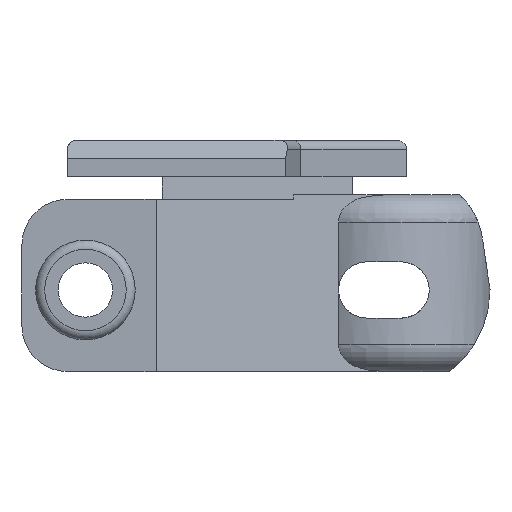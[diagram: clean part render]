
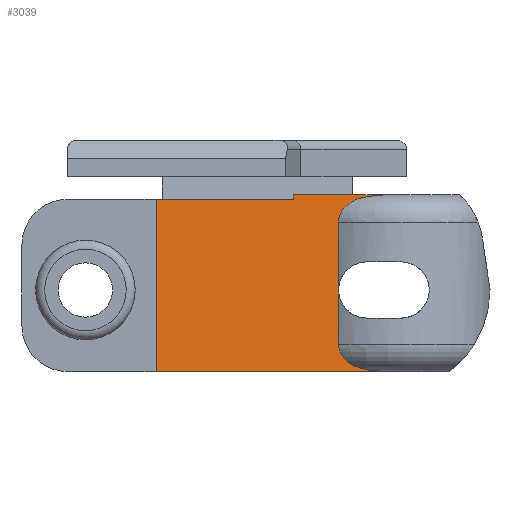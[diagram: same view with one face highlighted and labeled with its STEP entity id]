
A CAD part, front view. The second image highlights one B-rep face of the part: STEP entity #3039.
In plain terms, the highlighted planar face has unit normal (0.255, -0.967, 0).
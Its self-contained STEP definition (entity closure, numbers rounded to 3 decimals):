
#93=B_SPLINE_CURVE_WITH_KNOTS('',3,(#5126,#5127,#5128,#5129,#5130,#5131,
#5132,#5133,#5134,#5135),.UNSPECIFIED.,.F.,.F.,(4,2,2,2,4),(0.161,
0.525,0.674,0.781,0.872),
 .UNSPECIFIED.);
#95=B_SPLINE_CURVE_WITH_KNOTS('',3,(#5156,#5157,#5158,#5159,#5160,#5161,
#5162,#5163,#5164,#5165),.UNSPECIFIED.,.F.,.F.,(4,2,2,2,4),(2.616,
2.706,2.814,2.962,3.327),
 .UNSPECIFIED.);
#383=FACE_OUTER_BOUND('',#557,.T.);
#557=EDGE_LOOP('',(#2775,#2776,#2777,#2778,#2779,#2780,#2781,#2782,#2783));
#660=LINE('',#4627,#976);
#661=LINE('',#4629,#977);
#675=LINE('',#4684,#991);
#684=LINE('',#4705,#1000);
#815=LINE('',#5168,#1131);
#870=LINE('',#5310,#1186);
#871=LINE('',#5313,#1187);
#976=VECTOR('',#3543,10.);
#977=VECTOR('',#3544,10.);
#991=VECTOR('',#3596,10.);
#1000=VECTOR('',#3615,10.);
#1131=VECTOR('',#4030,10.);
#1186=VECTOR('',#4163,10.);
#1187=VECTOR('',#4168,10.);
#1296=VERTEX_POINT('',#4552);
#1304=VERTEX_POINT('',#4625);
#1305=VERTEX_POINT('',#4628);
#1326=VERTEX_POINT('',#4681);
#1327=VERTEX_POINT('',#4683);
#1333=VERTEX_POINT('',#4702);
#1334=VERTEX_POINT('',#4704);
#1445=VERTEX_POINT('',#5154);
#1446=VERTEX_POINT('',#5167);
#1609=EDGE_CURVE('',#1304,#1296,#660,.T.);
#1610=EDGE_CURVE('',#1296,#1305,#661,.T.);
#1637=EDGE_CURVE('',#1327,#1326,#675,.T.);
#1648=EDGE_CURVE('',#1334,#1333,#684,.T.);
#1840=EDGE_CURVE('',#1305,#1326,#93,.F.);
#1843=EDGE_CURVE('',#1445,#1304,#95,.F.);
#1844=EDGE_CURVE('',#1445,#1446,#815,.T.);
#1902=EDGE_CURVE('',#1446,#1334,#870,.T.);
#1903=EDGE_CURVE('',#1333,#1327,#871,.T.);
#2775=ORIENTED_EDGE('',*,*,#1648,.T.);
#2776=ORIENTED_EDGE('',*,*,#1903,.T.);
#2777=ORIENTED_EDGE('',*,*,#1637,.T.);
#2778=ORIENTED_EDGE('',*,*,#1840,.F.);
#2779=ORIENTED_EDGE('',*,*,#1610,.F.);
#2780=ORIENTED_EDGE('',*,*,#1609,.F.);
#2781=ORIENTED_EDGE('',*,*,#1843,.F.);
#2782=ORIENTED_EDGE('',*,*,#1844,.T.);
#2783=ORIENTED_EDGE('',*,*,#1902,.T.);
#2875=PLANE('',#3326);
#3039=ADVANCED_FACE('',(#383),#2875,.T.);
#3326=AXIS2_PLACEMENT_3D('',#5319,#4177,#4178);
#3543=DIRECTION('',(0.,0.,-1.));
#3544=DIRECTION('',(0.,0.,-1.));
#3596=DIRECTION('',(0.967,0.255,0.));
#3615=DIRECTION('',(-0.967,-0.255,0.));
#4030=DIRECTION('',(-0.967,-0.255,0.));
#4163=DIRECTION('',(0.,0.,-1.));
#4168=DIRECTION('',(0.,0.,-1.));
#4177=DIRECTION('center_axis',(0.255,-0.967,0.));
#4178=DIRECTION('ref_axis',(0.,0.,-1.));
#4552=CARTESIAN_POINT('',(9.113,-9.75,26.));
#4625=CARTESIAN_POINT('',(9.113,-9.75,33.5));
#4627=CARTESIAN_POINT('',(9.113,-9.75,36.5));
#4628=CARTESIAN_POINT('',(9.113,-9.75,20.));
#4629=CARTESIAN_POINT('',(9.113,-9.75,36.5));
#4681=CARTESIAN_POINT('',(15.016,-8.191,17.));
#4683=CARTESIAN_POINT('',(-11.025,-15.07,17.));
#4684=CARTESIAN_POINT('',(-5.007,-13.48,17.));
#4702=CARTESIAN_POINT('',(-11.025,-15.07,36.));
#4704=CARTESIAN_POINT('',(4.175,-11.055,36.));
#4705=CARTESIAN_POINT('',(-2.06,-12.702,36.));
#5126=CARTESIAN_POINT('Ctrl Pts',(15.016,-8.191,17.));
#5127=CARTESIAN_POINT('Ctrl Pts',(13.841,-8.501,17.));
#5128=CARTESIAN_POINT('Ctrl Pts',(12.43,-8.874,17.036));
#5129=CARTESIAN_POINT('Ctrl Pts',(10.866,-9.287,17.589));
#5130=CARTESIAN_POINT('Ctrl Pts',(10.355,-9.422,17.859));
#5131=CARTESIAN_POINT('Ctrl Pts',(9.729,-9.587,18.414));
#5132=CARTESIAN_POINT('Ctrl Pts',(9.467,-9.657,18.748));
#5133=CARTESIAN_POINT('Ctrl Pts',(9.194,-9.729,19.345));
#5134=CARTESIAN_POINT('Ctrl Pts',(9.113,-9.75,19.698));
#5135=CARTESIAN_POINT('Ctrl Pts',(9.113,-9.75,20.));
#5154=CARTESIAN_POINT('',(15.016,-8.191,36.5));
#5156=CARTESIAN_POINT('Ctrl Pts',(9.113,-9.75,33.5));
#5157=CARTESIAN_POINT('Ctrl Pts',(9.113,-9.75,33.802));
#5158=CARTESIAN_POINT('Ctrl Pts',(9.194,-9.729,34.155));
#5159=CARTESIAN_POINT('Ctrl Pts',(9.467,-9.657,34.752));
#5160=CARTESIAN_POINT('Ctrl Pts',(9.729,-9.587,35.086));
#5161=CARTESIAN_POINT('Ctrl Pts',(10.355,-9.422,35.641));
#5162=CARTESIAN_POINT('Ctrl Pts',(10.866,-9.287,35.911));
#5163=CARTESIAN_POINT('Ctrl Pts',(12.43,-8.874,36.464));
#5164=CARTESIAN_POINT('Ctrl Pts',(13.841,-8.501,36.5));
#5165=CARTESIAN_POINT('Ctrl Pts',(15.016,-8.191,36.5));
#5167=CARTESIAN_POINT('',(4.175,-11.055,36.5));
#5168=CARTESIAN_POINT('',(-5.007,-13.48,36.5));
#5310=CARTESIAN_POINT('',(4.175,-11.055,36.5));
#5313=CARTESIAN_POINT('',(-11.025,-15.07,36.5));
#5319=CARTESIAN_POINT('Origin',(-11.025,-15.07,36.5));
